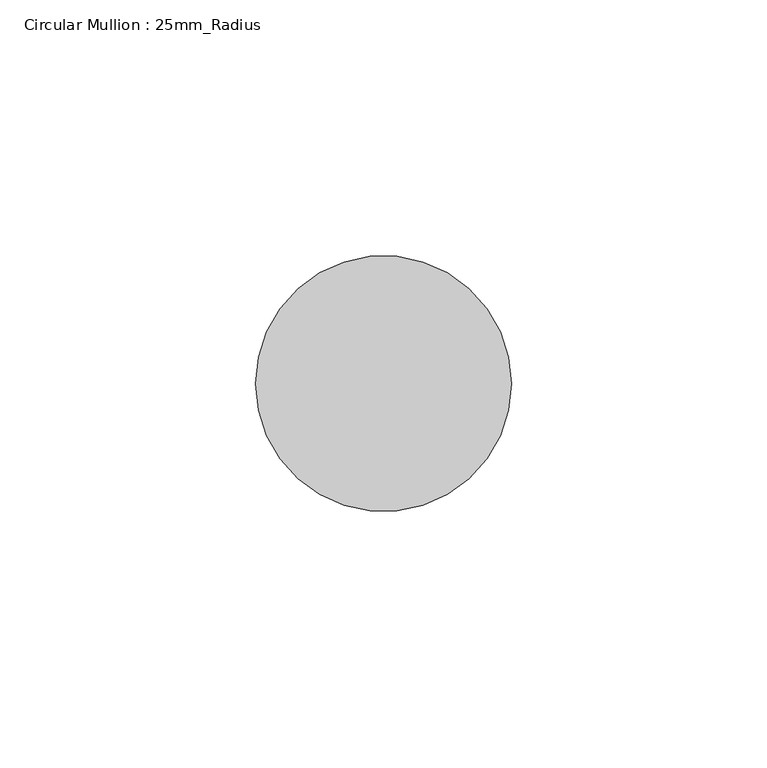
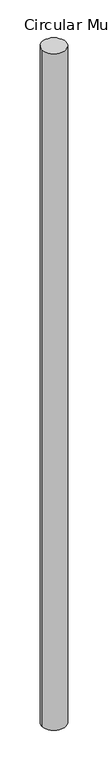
"""IFC4 building model written with IfcOpenShell, lengths in millimetres: member geometry, Circular Mullion : 25mm_Radius."""

import ifcopenshell
import ifcopenshell.guid

model = None  # the IFC model being written
_history = None  # IfcOwnerHistory: only IFC2X3 demands one
_inside = {}  # id of a spatial element -> (the spatial element, [elements in it])
_under = {}  # id of a project, library or spatial element -> (it, [spatial elements below it])
_declared = {}  # id of a project -> (the project, [libraries it declares])
_typed = {}  # id of a type object -> (the type object, [elements of that type])
_made_of = {}  # id of a material, layer set ... -> (it, [elements and type objects made of it])


def new_model(schema):
    """Start an empty IFC model of exactly this schema.

    Asked for "IFC4X3", IfcOpenShell would pick the latest addendum, in which some entities
    have other attributes; the version numbers below select the first issue.
    IFC2X3 requires an IfcOwnerHistory on every rooted entity: one is made here for all.
    """
    global model, _history
    if schema == "IFC4X3":
        model = ifcopenshell.file(schema_version=(4, 3, 0, 0))
    else:
        model = ifcopenshell.file(schema=schema)
    _inside.clear()
    _under.clear()
    _declared.clear()
    _typed.clear()
    _made_of.clear()
    _history = None
    if model.schema == "IFC2X3":
        org = make("IfcOrganization", Name="unknown")
        user = make(
            "IfcPersonAndOrganization",
            ThePerson=make("IfcPerson", FamilyName="unknown"),
            TheOrganization=org,
        )
        app = make(
            "IfcApplication",
            ApplicationDeveloper=org,
            Version="unknown",
            ApplicationFullName="unknown",
            ApplicationIdentifier="unknown",
        )
        _history = make(
            "IfcOwnerHistory",
            OwningUser=user,
            OwningApplication=app,
            ChangeAction="ADDED",
            CreationDate=0,
        )
    return model


def make(cls, **values):
    """One entity of the class cls with the attributes given. An attribute that is None is left unset."""
    return model.create_entity(
        cls, **{name: value for name, value in values.items() if value is not None}
    )


def rooted(cls, **values):
    """An entity with a GlobalId (a new one), such as an element, a storey or a relation."""
    return make(cls, GlobalId=ifcopenshell.guid.new(), OwnerHistory=_history, **values)


def si_unit(unit_type, name, prefix=None):
    """IfcSIUnit, for example si_unit("LENGTHUNIT", "METRE", prefix="MILLI")."""
    return make("IfcSIUnit", UnitType=unit_type, Prefix=prefix, Name=name)


def assignment(units):
    """IfcUnitAssignment: the units of a project."""
    return None if units is None else make("IfcUnitAssignment", Units=units)


def point(xyz):
    """IfcCartesianPoint."""
    return None if xyz is None else make("IfcCartesianPoint", Coordinates=xyz)


def direction(xyz):
    """IfcDirection."""
    return None if xyz is None else make("IfcDirection", DirectionRatios=xyz)


def frame(location, z_axis=None, x_axis=None):
    """IfcAxis2Placement3D, a coordinate frame: its origin and axes. An axis left out is left unset."""
    return make(
        "IfcAxis2Placement3D",
        Location=point(location),
        Axis=direction(z_axis),
        RefDirection=direction(x_axis),
    )


def frame_2d(location, x_axis=None):
    """IfcAxis2Placement2D, a coordinate frame in the plane: its origin and x axis."""
    return make(
        "IfcAxis2Placement2D", Location=point(location), RefDirection=direction(x_axis)
    )


def origin():
    """The frame at (0, 0, 0) with its axes left unset."""
    return frame((0.0, 0.0, 0.0))


def place(relative_to, where):
    """IfcLocalPlacement: puts the frame where relative to a parent placement (None: the world)."""
    return make(
        "IfcLocalPlacement", PlacementRelTo=relative_to, RelativePlacement=where
    )


def context(
    kind, dimensions, precision=None, world=None, true_north=None, identifier=None
):
    """IfcGeometricRepresentationContext, for example the 3D "Model" context."""
    return make(
        "IfcGeometricRepresentationContext",
        ContextIdentifier=identifier,
        ContextType=kind,
        CoordinateSpaceDimension=dimensions,
        Precision=precision,
        WorldCoordinateSystem=world,
        TrueNorth=true_north,
    )


def project(units=None, contexts=None):
    """IfcProject with its units and contexts."""
    return rooted(
        "IfcProject",
        Name="project",
        RepresentationContexts=contexts,
        UnitsInContext=assignment(units),
    )


def spatial(cls, under=None, at=None, **own):
    """A site, building, storey or space (cls), placed at a placement, below another one or the project."""
    s = rooted(cls, ObjectPlacement=at, **own)
    if under is not None:
        _under.setdefault(under.id(), (under, []))[1].append(s)
    return s


def circle_curve(where, radius):
    """IfcCircle in the frame where."""
    return make("IfcCircle", Position=where, Radius=radius)


def trimmed(basis, trim1, trim2, sense, master):
    """IfcTrimmedCurve: the piece of a basis curve between two trims."""
    return make(
        "IfcTrimmedCurve",
        BasisCurve=basis,
        Trim1=trim1,
        Trim2=trim2,
        SenseAgreement=sense,
        MasterRepresentation=master,
    )


def segment(curve, same_sense, transition):
    """IfcCompositeCurveSegment."""
    return make(
        "IfcCompositeCurveSegment",
        Transition=transition,
        SameSense=same_sense,
        ParentCurve=curve,
    )


def composite_curve(segments, self_intersect=None):
    """IfcCompositeCurve: segments joined end to end."""
    return make("IfcCompositeCurve", Segments=segments, SelfIntersect=self_intersect)


def outline(outer, holes=None, kind="AREA"):
    """IfcArbitraryClosedProfileDef: a profile drawn as a closed curve; with holes, ...WithVoids."""
    if holes is None:
        return make("IfcArbitraryClosedProfileDef", ProfileType=kind, OuterCurve=outer)
    return make(
        "IfcArbitraryProfileDefWithVoids",
        ProfileType=kind,
        OuterCurve=outer,
        InnerCurves=holes,
    )


def extrude(swept, where, along, depth):
    """IfcExtrudedAreaSolid: the profile swept, set in the frame where, extruded along a direction by depth."""
    return make(
        "IfcExtrudedAreaSolid",
        SweptArea=swept,
        Position=where,
        ExtrudedDirection=direction(along),
        Depth=depth,
    )


def shape(context_of_items, identifier, shape_type, items):
    """IfcShapeRepresentation: the items that make up one representation, for example the "Body"."""
    return make(
        "IfcShapeRepresentation",
        ContextOfItems=context_of_items,
        RepresentationIdentifier=identifier,
        RepresentationType=shape_type,
        Items=items,
    )


def source(mapping_origin, context_of_items, identifier, shape_type, items):
    """IfcRepresentationMap: a shape defined once, which mapped items show again and again."""
    return make(
        "IfcRepresentationMap",
        MappingOrigin=mapping_origin,
        MappedRepresentation=shape(context_of_items, identifier, shape_type, items),
    )


def transform(
    local_origin,
    x_axis=None,
    y_axis=None,
    z_axis=None,
    scale=None,
    scale2=None,
    scale3=None,
    uniform=True,
):
    """IfcCartesianTransformationOperator3D, or its non-uniform kind. x_axis, y_axis, z_axis: its Axis1, 2, 3."""
    if uniform:
        return make(
            "IfcCartesianTransformationOperator3D",
            Axis1=direction(x_axis),
            Axis2=direction(y_axis),
            LocalOrigin=point(local_origin),
            Scale=scale,
            Axis3=direction(z_axis),
        )
    return make(
        "IfcCartesianTransformationOperator3DnonUniform",
        Axis1=direction(x_axis),
        Axis2=direction(y_axis),
        LocalOrigin=point(local_origin),
        Scale=scale,
        Axis3=direction(z_axis),
        Scale2=scale2,
        Scale3=scale3,
    )


def mapped(mapping_source, mapping_target):
    """IfcMappedItem: shows the shape of a source again, moved by a transform."""
    return make(
        "IfcMappedItem", MappingSource=mapping_source, MappingTarget=mapping_target
    )


def made_of(thing, what):
    """Note that an element or type object is made of a material, layer set ...; save() writes the relation."""
    if what is not None:
        _made_of.setdefault(what.id(), (what, []))[1].append(thing)
    return thing


def element(
    cls,
    number,
    at=None,
    inside=None,
    cuts=None,
    type_object=None,
    material=None,
    context=None,
    identifier="Body",
    shape_type=None,
    held_by="IfcProductDefinitionShape",
    body=None,
    shapes=None,
    **own,
):
    """One element of the class cls, such as IfcWall. Its Tag is "e" and its number.

    at: its placement. inside: the storey or other place that contains it. cuts: it is an
    opening in that element (IfcRelVoidsElement). A single representation is given by context,
    identifier, shape_type and body (its items); several are given by shapes. held_by: the class
    of the entity that holds the representations. save() writes the other relations.
    """
    e = rooted(cls, Tag="e%d" % number, ObjectPlacement=at, **own)
    if body is not None:
        shapes = [shape(context, identifier, shape_type, body)]
    if shapes is not None:
        e.Representation = make(held_by, Representations=shapes)
    if inside is not None:
        _inside.setdefault(inside.id(), (inside, []))[1].append(e)
    if cuts is not None:
        rooted(
            "IfcRelVoidsElement", RelatingBuildingElement=cuts, RelatedOpeningElement=e
        )
    if type_object is not None:
        _typed.setdefault(type_object.id(), (type_object, []))[1].append(e)
    return made_of(e, material)


def aggregate(whole, parts):
    """IfcRelAggregates: a whole, such as a stair, and the parts it consists of."""
    return rooted("IfcRelAggregates", RelatingObject=whole, RelatedObjects=parts)


def save(model, path):
    """Write the relations noted so far, then the file.

    IfcRelAggregates (storeys below a building ...), IfcRelContainedInSpatialStructure (elements
    in a storey), IfcRelDefinesByType, IfcRelAssociatesMaterial and IfcRelDeclares: one each for
    every whole, place, type object, material and project.
    """
    for whole, parts in _under.values():
        aggregate(whole, parts)
    for where, things in _inside.values():
        rooted(
            "IfcRelContainedInSpatialStructure",
            RelatedElements=things,
            RelatingStructure=where,
        )
    for kind, things in _typed.values():
        rooted("IfcRelDefinesByType", RelatedObjects=things, RelatingType=kind)
    for what, things in _made_of.values():
        rooted("IfcRelAssociatesMaterial", RelatedObjects=things, RelatingMaterial=what)
    for by, libraries in _declared.values():
        rooted("IfcRelDeclares", RelatingContext=by, RelatedDefinitions=libraries)
    model.write(path)


def circular_mullion_25mm_radius_e2329b14(model_context):
    return source(origin(), model_context, "Body", "SweptSolid", [
        extrude(outline(composite_curve([segment(trimmed(circle_curve(frame_2d((-25.0, 0.0)), 25.0), [point((0.0, 0.0))], [point((-50.0, 0.0))], False, "CARTESIAN"), True, "CONTINUOUS"), segment(trimmed(circle_curve(frame_2d((-25.0, 0.0)), 25.0), [point((-50.0, 0.0))], [point((0.0, 0.0))], False, "CARTESIAN"), True, "CONTINUOUS")], self_intersect=False)), frame((0.0, 0.0, -1491.663961), z_axis=(0.0, 0.0, 1.0), x_axis=(1.0, 0.0, 0.0)), (0.0, 0.0, 1.0), 1491.663961),
    ])


if __name__ == "__main__":
    model = new_model("IFC4")
    model_context = context("Model", 3, world=origin())
    ifc_project = project(units=[si_unit("LENGTHUNIT", "METRE", prefix="MILLI")], contexts=[model_context])
    site = spatial("IfcSite", under=ifc_project)
    building = spatial("IfcBuilding", under=site)
    placement = place(None, origin())
    circular_mullion_25mm_radius_shape = circular_mullion_25mm_radius_e2329b14(model_context)
    element("IfcMember", 1, ObjectType="Circular Mullion : 25mm_Radius", at=placement, inside=building, context=model_context, shape_type="MappedRepresentation", body=[
        mapped(circular_mullion_25mm_radius_shape, transform((0.0, 0.0, 0.0), x_axis=(1.0, 0.0, 0.0), y_axis=(0.0, 1.0, 0.0), z_axis=(0.0, 0.0, 1.0))),
    ])
    save(model, "model.ifc")
